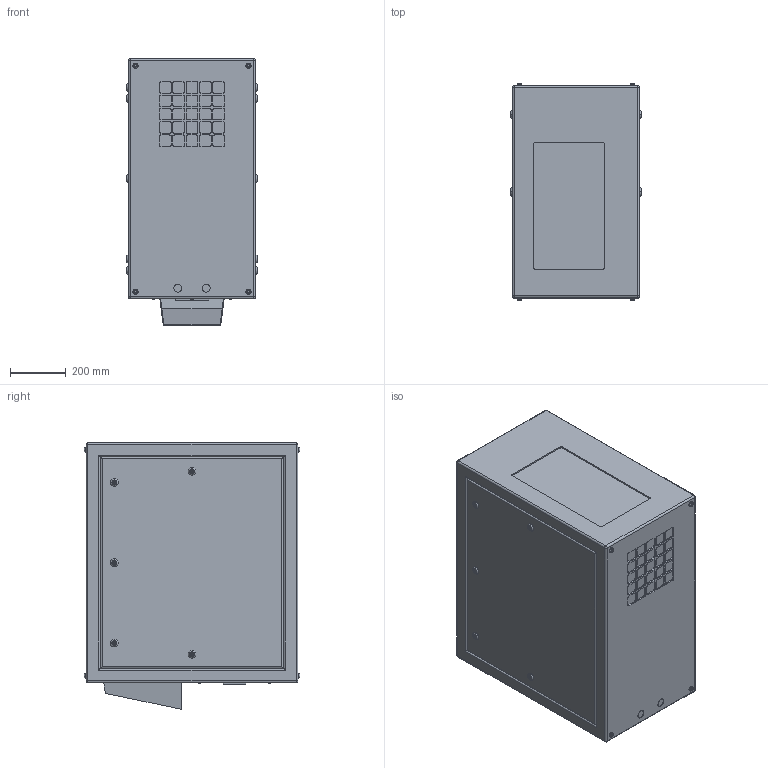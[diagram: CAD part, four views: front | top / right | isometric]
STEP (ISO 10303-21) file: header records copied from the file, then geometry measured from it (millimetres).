
FILE_DESCRIPTION (( 'STEP AP214' ), '1' );
FILE_NAME ('Cyclone 55.200.P R10.STEP', '2022-09-08T18:57:36', ( '' ), ( '' ), 'SwSTEP 2.0', 'SolidWorks 2020', '' );
FILE_SCHEMA (( 'AUTOMOTIVE_DESIGN' ));
Length unit declared in the file: inch
Products named in the file (1): Cyclone 55.200.P R10
Bounding box: 469.9 x 776.6 x 958.85 mm (x, y, z)
Volume: 132683504.4 mm3; surface area: 5150398.4 mm2
Topology: 1 solids, 8 shells, 635 faces, 1504 edges, 968 vertices
Faces by surface type: plane 307, cylinder 272, torus 48, sphere 8
Entity records: 23006 total; most frequent: CARTESIAN_POINT 3564, DIRECTION 3280, ORIENTED_EDGE 2992, EDGE_CURVE 1496, AXIS2_PLACEMENT_3D 1228, VERTEX_POINT 968, LINE 824, VECTOR 824
